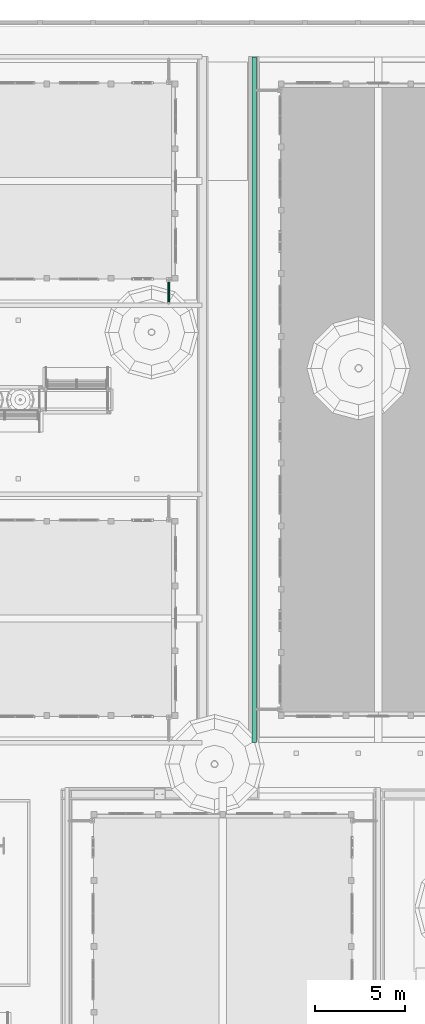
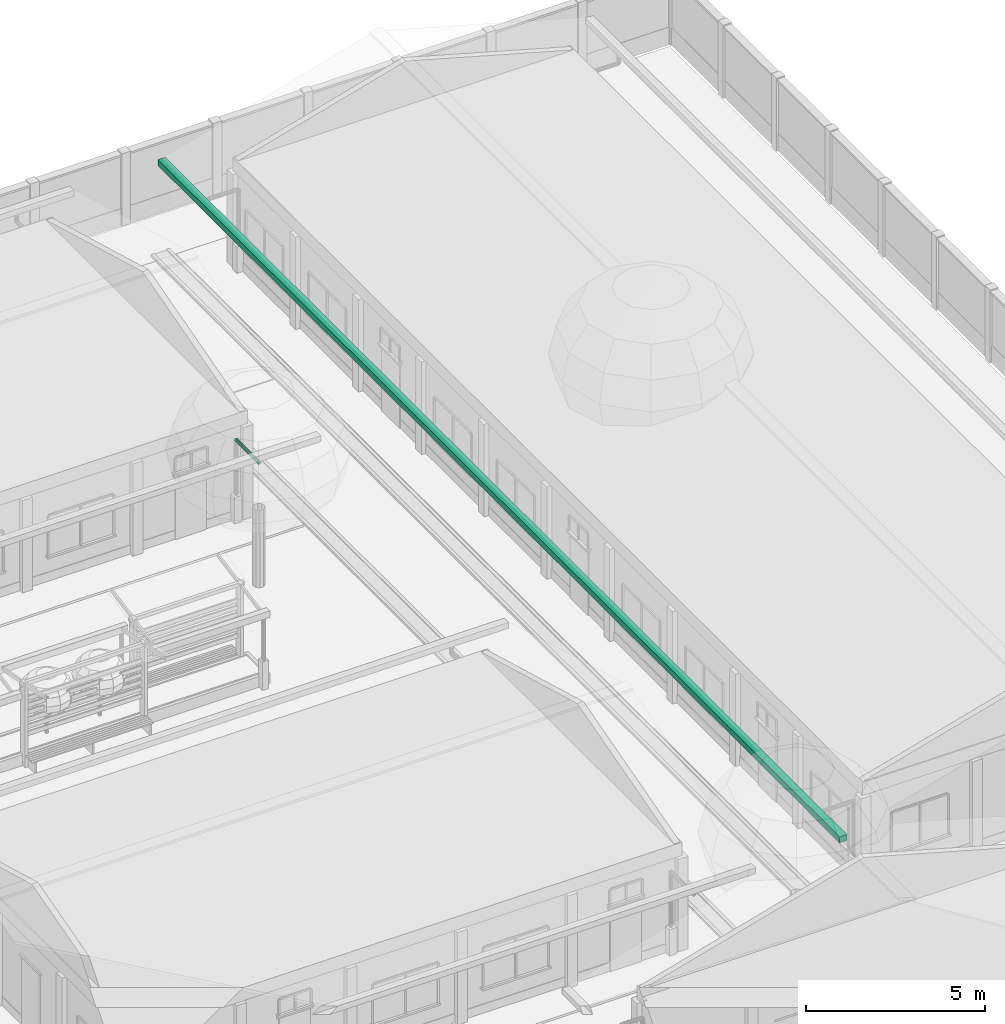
# One storey, part 111 of 177: 2 pipe segments.
"""IFC4 building model written with IfcOpenShell, lengths in metres."""

import ifcopenshell
import ifcopenshell.guid

model = None  # the IFC model being written
_history = None  # IfcOwnerHistory: only IFC2X3 demands one
_inside = {}  # id of a spatial element -> (the spatial element, [elements in it])
_under = {}  # id of a project, library or spatial element -> (it, [spatial elements below it])
_declared = {}  # id of a project -> (the project, [libraries it declares])
_typed = {}  # id of a type object -> (the type object, [elements of that type])
_made_of = {}  # id of a material, layer set ... -> (it, [elements and type objects made of it])


def new_model(schema):
    """Start an empty IFC model of exactly this schema.

    Asked for "IFC4X3", IfcOpenShell would pick the latest addendum, in which some entities
    have other attributes; the version numbers below select the first issue.
    IFC2X3 requires an IfcOwnerHistory on every rooted entity: one is made here for all.
    """
    global model, _history
    if schema == "IFC4X3":
        model = ifcopenshell.file(schema_version=(4, 3, 0, 0))
    else:
        model = ifcopenshell.file(schema=schema)
    _inside.clear()
    _under.clear()
    _declared.clear()
    _typed.clear()
    _made_of.clear()
    _history = None
    if model.schema == "IFC2X3":
        org = make("IfcOrganization", Name="unknown")
        user = make(
            "IfcPersonAndOrganization",
            ThePerson=make("IfcPerson", FamilyName="unknown"),
            TheOrganization=org,
        )
        app = make(
            "IfcApplication",
            ApplicationDeveloper=org,
            Version="unknown",
            ApplicationFullName="unknown",
            ApplicationIdentifier="unknown",
        )
        _history = make(
            "IfcOwnerHistory",
            OwningUser=user,
            OwningApplication=app,
            ChangeAction="ADDED",
            CreationDate=0,
        )
    return model


def make(cls, **values):
    """One entity of the class cls with the attributes given. An attribute that is None is left unset."""
    return model.create_entity(
        cls, **{name: value for name, value in values.items() if value is not None}
    )


def rooted(cls, **values):
    """An entity with a GlobalId (a new one), such as an element, a storey or a relation."""
    return make(cls, GlobalId=ifcopenshell.guid.new(), OwnerHistory=_history, **values)


def si_unit(unit_type, name, prefix=None):
    """IfcSIUnit, for example si_unit("LENGTHUNIT", "METRE", prefix="MILLI")."""
    return make("IfcSIUnit", UnitType=unit_type, Prefix=prefix, Name=name)


def assignment(units):
    """IfcUnitAssignment: the units of a project."""
    return None if units is None else make("IfcUnitAssignment", Units=units)


def point(xyz):
    """IfcCartesianPoint."""
    return None if xyz is None else make("IfcCartesianPoint", Coordinates=xyz)


def direction(xyz):
    """IfcDirection."""
    return None if xyz is None else make("IfcDirection", DirectionRatios=xyz)


def frame(location, z_axis=None, x_axis=None):
    """IfcAxis2Placement3D, a coordinate frame: its origin and axes. An axis left out is left unset."""
    return make(
        "IfcAxis2Placement3D",
        Location=point(location),
        Axis=direction(z_axis),
        RefDirection=direction(x_axis),
    )


def origin():
    """The frame at (0, 0, 0) with its axes left unset."""
    return frame((0.0, 0.0, 0.0))


def origin_with_axes():
    """The frame at (0, 0, 0) with the z axis (0, 0, 1) and the x axis (1, 0, 0) written out."""
    return frame((0.0, 0.0, 0.0), z_axis=(0.0, 0.0, 1.0), x_axis=(1.0, 0.0, 0.0))


def place(relative_to, where):
    """IfcLocalPlacement: puts the frame where relative to a parent placement (None: the world)."""
    return make(
        "IfcLocalPlacement", PlacementRelTo=relative_to, RelativePlacement=where
    )


def context(
    kind, dimensions, precision=None, world=None, true_north=None, identifier=None
):
    """IfcGeometricRepresentationContext, for example the 3D "Model" context."""
    return make(
        "IfcGeometricRepresentationContext",
        ContextIdentifier=identifier,
        ContextType=kind,
        CoordinateSpaceDimension=dimensions,
        Precision=precision,
        WorldCoordinateSystem=world,
        TrueNorth=true_north,
    )


def subcontext(parent, identifier, kind, view, scale=None):
    """IfcGeometricRepresentationSubContext, for example "Body" below "Model"."""
    return make(
        "IfcGeometricRepresentationSubContext",
        ContextIdentifier=identifier,
        ContextType=kind,
        ParentContext=parent,
        TargetScale=scale,
        TargetView=view,
    )


def project(units=None, contexts=None):
    """IfcProject with its units and contexts."""
    return rooted(
        "IfcProject",
        Name="project",
        RepresentationContexts=contexts,
        UnitsInContext=assignment(units),
    )


def spatial(cls, under=None, at=None, **own):
    """A site, building, storey or space (cls), placed at a placement, below another one or the project."""
    s = rooted(cls, ObjectPlacement=at, **own)
    if under is not None:
        _under.setdefault(under.id(), (under, []))[1].append(s)
    return s


def point_list(points):
    """IfcCartesianPointList2D or 3D."""
    cls = (
        "IfcCartesianPointList2D" if len(points[0]) == 2 else "IfcCartesianPointList3D"
    )
    return make(cls, CoordList=points)


def triangles(points, corners, closed=None, point_numbers=None):
    """IfcTriangulatedFaceSet: each triangle names its three corners, points numbered from 1."""
    return make(
        "IfcTriangulatedFaceSet",
        Coordinates=point_list(points),
        Closed=closed,
        CoordIndex=corners,
        PnIndex=point_numbers,
    )


def shape(context_of_items, identifier, shape_type, items):
    """IfcShapeRepresentation: the items that make up one representation, for example the "Body"."""
    return make(
        "IfcShapeRepresentation",
        ContextOfItems=context_of_items,
        RepresentationIdentifier=identifier,
        RepresentationType=shape_type,
        Items=items,
    )


def made_of(thing, what):
    """Note that an element or type object is made of a material, layer set ...; save() writes the relation."""
    if what is not None:
        _made_of.setdefault(what.id(), (what, []))[1].append(thing)
    return thing


def element(
    cls,
    number,
    at=None,
    inside=None,
    cuts=None,
    type_object=None,
    material=None,
    context=None,
    identifier="Body",
    shape_type=None,
    held_by="IfcProductDefinitionShape",
    body=None,
    shapes=None,
    **own,
):
    """One element of the class cls, such as IfcWall. Its Tag is "e" and its number.

    at: its placement. inside: the storey or other place that contains it. cuts: it is an
    opening in that element (IfcRelVoidsElement). A single representation is given by context,
    identifier, shape_type and body (its items); several are given by shapes. held_by: the class
    of the entity that holds the representations. save() writes the other relations.
    """
    e = rooted(cls, Tag="e%d" % number, ObjectPlacement=at, **own)
    if body is not None:
        shapes = [shape(context, identifier, shape_type, body)]
    if shapes is not None:
        e.Representation = make(held_by, Representations=shapes)
    if inside is not None:
        _inside.setdefault(inside.id(), (inside, []))[1].append(e)
    if cuts is not None:
        rooted(
            "IfcRelVoidsElement", RelatingBuildingElement=cuts, RelatedOpeningElement=e
        )
    if type_object is not None:
        _typed.setdefault(type_object.id(), (type_object, []))[1].append(e)
    return made_of(e, material)


def aggregate(whole, parts):
    """IfcRelAggregates: a whole, such as a stair, and the parts it consists of."""
    return rooted("IfcRelAggregates", RelatingObject=whole, RelatedObjects=parts)


def save(model, path):
    """Write the relations noted so far, then the file.

    IfcRelAggregates (storeys below a building ...), IfcRelContainedInSpatialStructure (elements
    in a storey), IfcRelDefinesByType, IfcRelAssociatesMaterial and IfcRelDeclares: one each for
    every whole, place, type object, material and project.
    """
    for whole, parts in _under.values():
        aggregate(whole, parts)
    for where, things in _inside.values():
        rooted(
            "IfcRelContainedInSpatialStructure",
            RelatedElements=things,
            RelatingStructure=where,
        )
    for kind, things in _typed.values():
        rooted("IfcRelDefinesByType", RelatedObjects=things, RelatingType=kind)
    for what, things in _made_of.values():
        rooted("IfcRelAssociatesMaterial", RelatedObjects=things, RelatingMaterial=what)
    for by, libraries in _declared.values():
        rooted("IfcRelDeclares", RelatingContext=by, RelatedDefinitions=libraries)
    model.write(path)


model = new_model("IFC4")

# Units and contexts
model_context = context("Model", 3, precision=1e-05, world=origin_with_axes())
body_context = subcontext(model_context, "Body", "Model", "MODEL_VIEW")
ifc_project = project(units=[si_unit("LENGTHUNIT", "METRE"), si_unit("AREAUNIT", "SQUARE_METRE"), si_unit("VOLUMEUNIT", "CUBIC_METRE"), si_unit("PLANEANGLEUNIT", "RADIAN")], contexts=[model_context])

# Site, building, storey
site_placement = place(None, origin_with_axes())
site = spatial("IfcSite", under=ifc_project, at=site_placement, Name="Predio Los Mangos - Morales, San Martín", CompositionType="ELEMENT")
building_placement = place(site_placement, origin())
building = spatial("IfcBuilding", under=site, at=building_placement, Name="Hogar de Refugio Temporal", CompositionType="ELEMENT")
storey_placement = place(building_placement, origin())
storey = spatial("IfcBuildingStorey", under=building, at=storey_placement, Name="NIVEL 1 (NPT +0.00)", CompositionType="ELEMENT", Elevation=0.0)

# Pipe segments
pipe_segment_1_placement = place(storey_placement, origin())
element("IfcPipeSegment", 1, at=pipe_segment_1_placement, inside=storey, Name="E-07_canaleta", ObjectType="Canaleta", PredefinedType="GUTTER", context=body_context, shape_type="Tessellation", body=[
    triangles([(54.08, 91.2, 3.13), (54.32, 91.2, 3.13), (54.32, 129.3, 3.13), (54.08, 129.3, 3.13), (54.08, 91.2, 3.33), (54.32, 91.2, 3.33), (54.32, 129.3, 3.33), (54.08, 129.3, 3.33)], [[1, 4, 3], [1, 3, 2], [5, 6, 7], [5, 7, 8], [1, 2, 6], [1, 6, 5], [2, 3, 7], [2, 7, 6], [3, 4, 8], [3, 8, 7], [4, 1, 5], [4, 5, 8]]),
])
pipe_segment_2_placement = place(storey_placement, origin())
element("IfcPipeSegment", 2, at=pipe_segment_2_placement, inside=storey, Name="montante_desvio", ObjectType="Montante PVC 4\"", PredefinedType="RIGIDSEGMENT", context=body_context, shape_type="Tessellation", body=[
    triangles([(49.45, 115.62, 2.965), (49.45, 116.91, 2.965), (49.4225, 115.62, 2.9576), (49.4225, 116.91, 2.9576), (49.4024, 115.62, 2.9375), (49.4024, 116.91, 2.9375), (49.395, 115.62, 2.91), (49.395, 116.91, 2.91), (49.4024, 115.62, 2.8825), (49.4024, 116.91, 2.8825), (49.4225, 115.62, 2.8624), (49.4225, 116.91, 2.8624), (49.45, 115.62, 2.855), (49.45, 116.91, 2.855), (49.4775, 115.62, 2.8624), (49.4775, 116.91, 2.8624), (49.4976, 115.62, 2.8825), (49.4976, 116.91, 2.8825), (49.505, 115.62, 2.91), (49.505, 116.91, 2.91), (49.4976, 115.62, 2.9375), (49.4976, 116.91, 2.9375), (49.4775, 115.62, 2.9576), (49.4775, 116.91, 2.9576)], [[1, 2, 4], [1, 4, 3], [3, 4, 6], [3, 6, 5], [5, 6, 8], [5, 8, 7], [7, 8, 10], [7, 10, 9], [9, 10, 12], [9, 12, 11], [11, 12, 14], [11, 14, 13], [13, 14, 16], [13, 16, 15], [15, 16, 18], [15, 18, 17], [17, 18, 20], [17, 20, 19], [19, 20, 22], [19, 22, 21], [6, 4, 2], [2, 24, 22], [22, 20, 18], [18, 16, 14], [14, 12, 10], [10, 8, 6], [6, 2, 22], [22, 18, 14], [14, 10, 6], [22, 14, 6], [21, 22, 24], [21, 24, 23], [23, 24, 2], [23, 2, 1], [23, 1, 3], [3, 5, 7], [7, 9, 11], [11, 13, 15], [15, 17, 19], [19, 21, 23], [23, 3, 7], [7, 11, 15], [15, 19, 23], [7, 15, 23]]),
])

save(model, "model.ifc")
